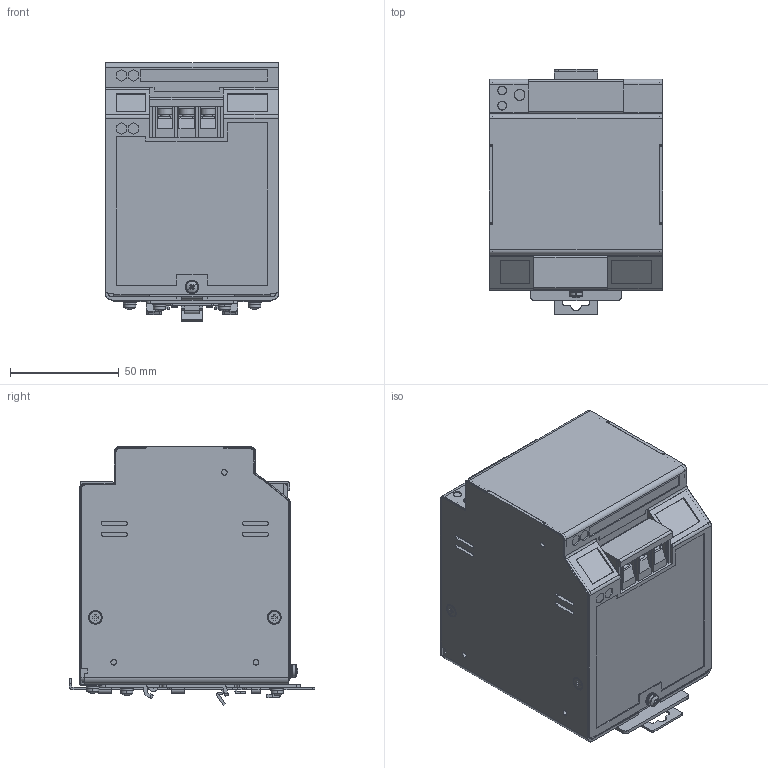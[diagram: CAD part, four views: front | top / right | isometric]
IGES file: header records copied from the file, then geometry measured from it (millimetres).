
Start section: SolidWorks IGES file using analytic representation for surfaces
Global section: file name: C:\DLP180-1_OUTLINE.IGS; native system: SolidWorks 2006 by SolidWorks Corporation; preprocessor: SolidWorks 2006 by SolidWorks Corporation; author: 3444matsunaga; date: 060920.163009; units: millimetre
Bounding box: 80 x 113 x 119.08 mm (x, y, z)
Surface area: 81432.2 mm2 (no closed solid volume)
Topology: 0 solids, 0 shells, 1625 faces, 16402 edges, 16306 vertices
Faces by surface type: bspline 1093, revolution 532
